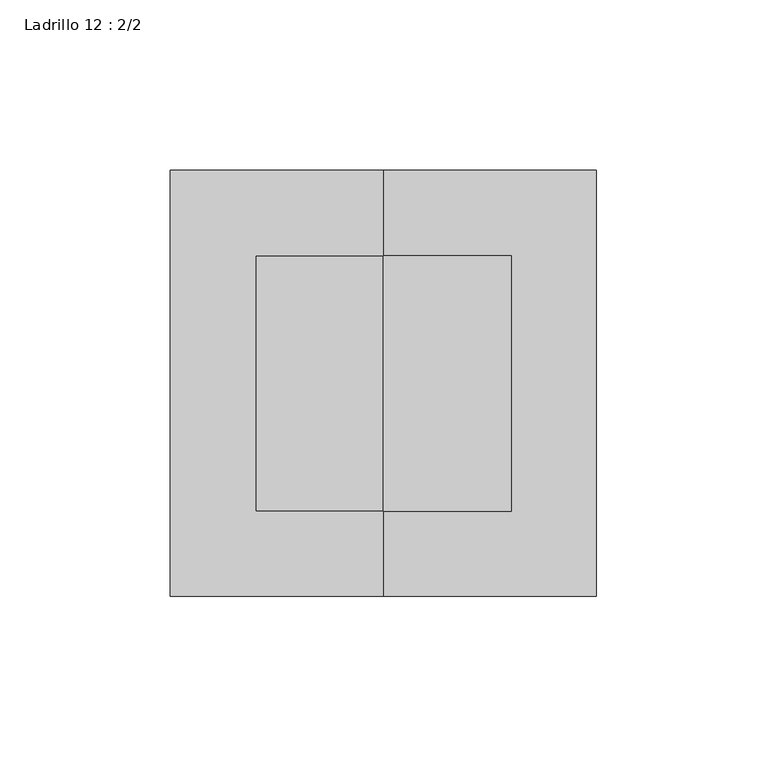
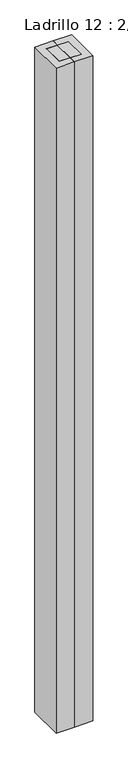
"""IFC4 building model written with IfcOpenShell, lengths in millimetres: column geometry, Ladrillo 12 : 2/2."""

from ifc_helpers import new_model, si_unit, origin, origin_with_axes, place, context, project, spatial, polyline, outline, extrude, source, transform, mapped, element, save


def ladrillo_12_2_2_d45fb763(model_context):
    return source(origin(), model_context, "Body", "SweptSolid", [
        extrude(outline(polyline([(0.0, 37.5), (37.5, 37.5), (37.5, -37.5), (0.0, -37.5), (0.0, 37.5)])), origin_with_axes(), (0.0, 0.0, 1.0), 2400.0),
        extrude(outline(polyline([(0.0, 62.5), (0.0, 37.5), (-37.5, 37.5), (-37.5, -37.5), (0.0, -37.5), (0.0, -62.5), (-62.5, -62.5), (-62.5, 62.5), (0.0, 62.5)])), origin_with_axes(), (0.0, 0.0, 1.0), 2400.0),
        extrude(outline(polyline([(0.0, 62.5), (62.5, 62.5), (62.5, -62.5), (0.0, -62.5), (0.0, -37.5), (37.5, -37.5), (37.5, 37.5), (0.0, 37.5), (0.0, 62.5)])), origin_with_axes(), (0.0, 0.0, 1.0), 2400.0),
        extrude(outline(polyline([(0.0, 37.5), (0.0, -37.5), (-37.5, -37.5), (-37.5, 37.5), (0.0, 37.5)])), origin_with_axes(), (0.0, 0.0, 1.0), 2400.0),
    ])


if __name__ == "__main__":
    model = new_model("IFC4")
    model_context = context("Model", 3, world=origin())
    ifc_project = project(units=[si_unit("LENGTHUNIT", "METRE", prefix="MILLI")], contexts=[model_context])
    site = spatial("IfcSite", under=ifc_project)
    building = spatial("IfcBuilding", under=site)
    placement = place(None, origin())
    ladrillo_12_2_2_shape = ladrillo_12_2_2_d45fb763(model_context)
    element("IfcColumn", 1, ObjectType="Ladrillo 12 : 2/2", at=placement, inside=building, context=model_context, shape_type="MappedRepresentation", body=[
        mapped(ladrillo_12_2_2_shape, transform((0.0, 0.0, 0.0), x_axis=(1.0, 0.0, 0.0), y_axis=(0.0, 1.0, 0.0), z_axis=(0.0, 0.0, 1.0))),
    ])
    save(model, "model.ifc")
